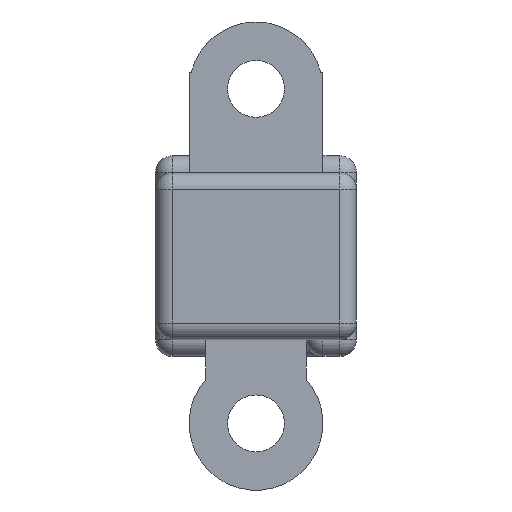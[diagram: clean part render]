
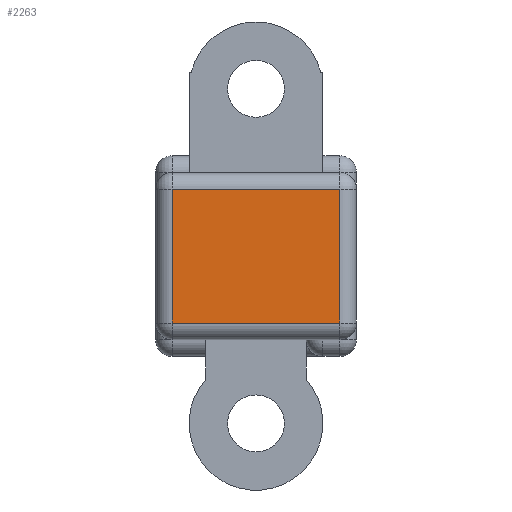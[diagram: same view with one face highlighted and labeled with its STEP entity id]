
A CAD part, left-side view. The second image highlights one B-rep face of the part: STEP entity #2263.
In plain terms, the highlighted planar face has unit normal (-1, 0, 0).
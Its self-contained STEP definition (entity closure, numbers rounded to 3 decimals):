
#159 = CYLINDRICAL_SURFACE('',#160,1.);
#160 = AXIS2_PLACEMENT_3D('',#161,#162,#163);
#161 = CARTESIAN_POINT('',(-10.5,-5.,-5.));
#162 = DIRECTION('',(0.,0.,1.));
#163 = DIRECTION('',(-1.,-0.,0.));
#898 = EDGE_CURVE('',#899,#901,#903,.T.);
#899 = VERTEX_POINT('',#900);
#900 = CARTESIAN_POINT('',(-11.5,-5.,-4.));
#901 = VERTEX_POINT('',#902);
#902 = CARTESIAN_POINT('',(-11.5,-5.,4.));
#903 = SURFACE_CURVE('',#904,(#908,#915),.PCURVE_S1.);
#904 = LINE('',#905,#906);
#905 = CARTESIAN_POINT('',(-11.5,-5.,-5.));
#906 = VECTOR('',#907,1.);
#907 = DIRECTION('',(0.,0.,1.));
#908 = PCURVE('',#159,#909);
#909 = DEFINITIONAL_REPRESENTATION('',(#910),#914);
#910 = LINE('',#911,#912);
#911 = CARTESIAN_POINT('',(0.,0.));
#912 = VECTOR('',#913,1.);
#913 = DIRECTION('',(0.,1.));
#914 = ( GEOMETRIC_REPRESENTATION_CONTEXT(2) 
PARAMETRIC_REPRESENTATION_CONTEXT() REPRESENTATION_CONTEXT('2D SPACE',''
  ) );
#915 = PCURVE('',#916,#921);
#916 = PLANE('',#917);
#917 = AXIS2_PLACEMENT_3D('',#918,#919,#920);
#918 = CARTESIAN_POINT('',(-11.5,-6.,-5.));
#919 = DIRECTION('',(1.,0.,0.));
#920 = DIRECTION('',(0.,0.,1.));
#921 = DEFINITIONAL_REPRESENTATION('',(#922),#926);
#922 = LINE('',#923,#924);
#923 = CARTESIAN_POINT('',(0.,-1.));
#924 = VECTOR('',#925,1.);
#925 = DIRECTION('',(1.,0.));
#926 = ( GEOMETRIC_REPRESENTATION_CONTEXT(2) 
PARAMETRIC_REPRESENTATION_CONTEXT() REPRESENTATION_CONTEXT('2D SPACE',''
  ) );
#994 = CYLINDRICAL_SURFACE('',#995,1.);
#995 = AXIS2_PLACEMENT_3D('',#996,#997,#998);
#996 = CARTESIAN_POINT('',(-10.5,5.,-5.));
#997 = DIRECTION('',(0.,0.,1.));
#998 = DIRECTION('',(-1.,-0.,0.));
#1837 = CYLINDRICAL_SURFACE('',#1838,1.);
#1838 = AXIS2_PLACEMENT_3D('',#1839,#1840,#1841);
#1839 = CARTESIAN_POINT('',(-10.5,-6.,-4.));
#1840 = DIRECTION('',(0.,1.,0.));
#1841 = DIRECTION('',(-1.,0.,0.));
#2052 = CYLINDRICAL_SURFACE('',#2053,1.);
#2053 = AXIS2_PLACEMENT_3D('',#2054,#2055,#2056);
#2054 = CARTESIAN_POINT('',(-10.5,-6.,4.));
#2055 = DIRECTION('',(0.,1.,0.));
#2056 = DIRECTION('',(-1.,0.,0.));
#2263 = ADVANCED_FACE('',(#2264),#916,.F.);
#2264 = FACE_BOUND('',#2265,.F.);
#2265 = EDGE_LOOP('',(#2266,#2267,#2290,#2313));
#2266 = ORIENTED_EDGE('',*,*,#898,.F.);
#2267 = ORIENTED_EDGE('',*,*,#2268,.T.);
#2268 = EDGE_CURVE('',#899,#2269,#2271,.T.);
#2269 = VERTEX_POINT('',#2270);
#2270 = CARTESIAN_POINT('',(-11.5,5.,-4.));
#2271 = SURFACE_CURVE('',#2272,(#2276,#2283),.PCURVE_S1.);
#2272 = LINE('',#2273,#2274);
#2273 = CARTESIAN_POINT('',(-11.5,-6.,-4.));
#2274 = VECTOR('',#2275,1.);
#2275 = DIRECTION('',(0.,1.,0.));
#2276 = PCURVE('',#916,#2277);
#2277 = DEFINITIONAL_REPRESENTATION('',(#2278),#2282);
#2278 = LINE('',#2279,#2280);
#2279 = CARTESIAN_POINT('',(1.,0.));
#2280 = VECTOR('',#2281,1.);
#2281 = DIRECTION('',(0.,-1.));
#2282 = ( GEOMETRIC_REPRESENTATION_CONTEXT(2) 
PARAMETRIC_REPRESENTATION_CONTEXT() REPRESENTATION_CONTEXT('2D SPACE',''
  ) );
#2283 = PCURVE('',#1837,#2284);
#2284 = DEFINITIONAL_REPRESENTATION('',(#2285),#2289);
#2285 = LINE('',#2286,#2287);
#2286 = CARTESIAN_POINT('',(-0.,0.));
#2287 = VECTOR('',#2288,1.);
#2288 = DIRECTION('',(-0.,1.));
#2289 = ( GEOMETRIC_REPRESENTATION_CONTEXT(2) 
PARAMETRIC_REPRESENTATION_CONTEXT() REPRESENTATION_CONTEXT('2D SPACE',''
  ) );
#2290 = ORIENTED_EDGE('',*,*,#2291,.T.);
#2291 = EDGE_CURVE('',#2269,#2292,#2294,.T.);
#2292 = VERTEX_POINT('',#2293);
#2293 = CARTESIAN_POINT('',(-11.5,5.,4.));
#2294 = SURFACE_CURVE('',#2295,(#2299,#2306),.PCURVE_S1.);
#2295 = LINE('',#2296,#2297);
#2296 = CARTESIAN_POINT('',(-11.5,5.,-5.));
#2297 = VECTOR('',#2298,1.);
#2298 = DIRECTION('',(0.,0.,1.));
#2299 = PCURVE('',#916,#2300);
#2300 = DEFINITIONAL_REPRESENTATION('',(#2301),#2305);
#2301 = LINE('',#2302,#2303);
#2302 = CARTESIAN_POINT('',(0.,-11.));
#2303 = VECTOR('',#2304,1.);
#2304 = DIRECTION('',(1.,0.));
#2305 = ( GEOMETRIC_REPRESENTATION_CONTEXT(2) 
PARAMETRIC_REPRESENTATION_CONTEXT() REPRESENTATION_CONTEXT('2D SPACE',''
  ) );
#2306 = PCURVE('',#994,#2307);
#2307 = DEFINITIONAL_REPRESENTATION('',(#2308),#2312);
#2308 = LINE('',#2309,#2310);
#2309 = CARTESIAN_POINT('',(-0.,0.));
#2310 = VECTOR('',#2311,1.);
#2311 = DIRECTION('',(-0.,1.));
#2312 = ( GEOMETRIC_REPRESENTATION_CONTEXT(2) 
PARAMETRIC_REPRESENTATION_CONTEXT() REPRESENTATION_CONTEXT('2D SPACE',''
  ) );
#2313 = ORIENTED_EDGE('',*,*,#2314,.F.);
#2314 = EDGE_CURVE('',#901,#2292,#2315,.T.);
#2315 = SURFACE_CURVE('',#2316,(#2320,#2327),.PCURVE_S1.);
#2316 = LINE('',#2317,#2318);
#2317 = CARTESIAN_POINT('',(-11.5,-6.,4.));
#2318 = VECTOR('',#2319,1.);
#2319 = DIRECTION('',(0.,1.,0.));
#2320 = PCURVE('',#916,#2321);
#2321 = DEFINITIONAL_REPRESENTATION('',(#2322),#2326);
#2322 = LINE('',#2323,#2324);
#2323 = CARTESIAN_POINT('',(9.,0.));
#2324 = VECTOR('',#2325,1.);
#2325 = DIRECTION('',(0.,-1.));
#2326 = ( GEOMETRIC_REPRESENTATION_CONTEXT(2) 
PARAMETRIC_REPRESENTATION_CONTEXT() REPRESENTATION_CONTEXT('2D SPACE',''
  ) );
#2327 = PCURVE('',#2052,#2328);
#2328 = DEFINITIONAL_REPRESENTATION('',(#2329),#2333);
#2329 = LINE('',#2330,#2331);
#2330 = CARTESIAN_POINT('',(0.,0.));
#2331 = VECTOR('',#2332,1.);
#2332 = DIRECTION('',(0.,1.));
#2333 = ( GEOMETRIC_REPRESENTATION_CONTEXT(2) 
PARAMETRIC_REPRESENTATION_CONTEXT() REPRESENTATION_CONTEXT('2D SPACE',''
  ) );
